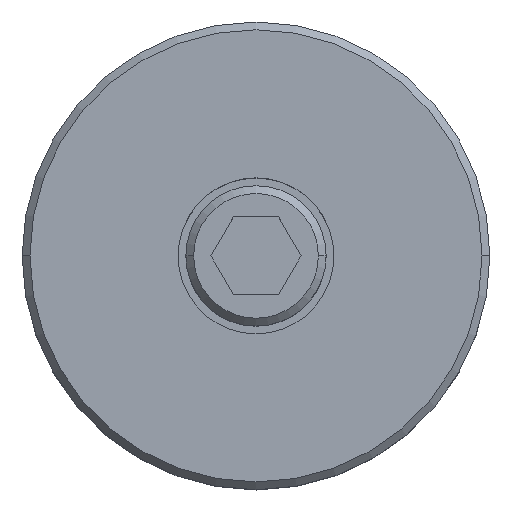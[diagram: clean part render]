
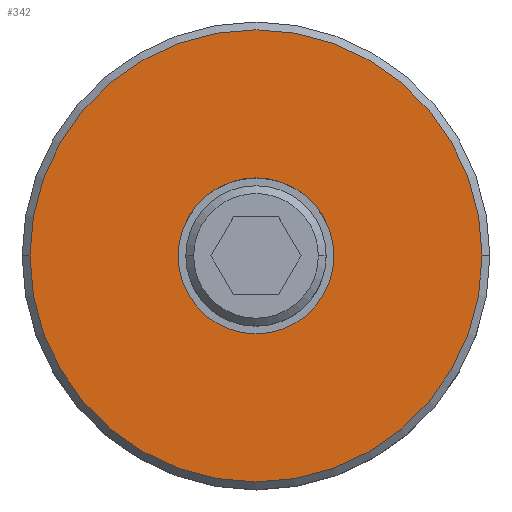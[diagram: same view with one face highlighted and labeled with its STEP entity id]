
A CAD part, top view. The second image highlights one B-rep face of the part: STEP entity #342.
In plain terms, the highlighted planar face has unit normal (0, 0, 1).
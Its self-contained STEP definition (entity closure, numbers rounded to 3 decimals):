
#101=VERTEX_POINT(' ',#102);
#102=CARTESIAN_POINT('',(-10.,0.,20.));
#103=VERTEX_POINT(' ',#104);
#104=CARTESIAN_POINT('',(10.,0.,20.));
#105=VERTEX_POINT(' ',#106);
#106=CARTESIAN_POINT('',(-29.,0.,20.));
#107=VERTEX_POINT(' ',#108);
#108=CARTESIAN_POINT('',(29.,0.,20.));
#172=CIRCLE('',#173,10.);
#173=AXIS2_PLACEMENT_3D('',#174,#175,#176);
#174=CARTESIAN_POINT('',(0.,0.,20.));
#175=DIRECTION('',(0.,0.,-1.));
#176=DIRECTION('',(0.,1.,0.));
#177=EDGE_CURVE(' ',#103,#101,#172,.T.);
#183=CIRCLE('',#184,10.);
#184=AXIS2_PLACEMENT_3D('',#185,#186,#187);
#185=CARTESIAN_POINT('',(0.,0.,20.));
#186=DIRECTION('',(0.,0.,-1.));
#187=DIRECTION('',(0.,-1.,0.));
#188=EDGE_CURVE(' ',#101,#103,#183,.T.);
#189=CIRCLE('',#190,29.);
#190=AXIS2_PLACEMENT_3D('',#191,#192,#193);
#191=CARTESIAN_POINT('',(0.,0.,20.));
#192=DIRECTION('',(0.,0.,-1.));
#193=DIRECTION('',(0.,1.,0.));
#194=EDGE_CURVE(' ',#107,#105,#189,.T.);
#195=CIRCLE('',#196,29.);
#196=AXIS2_PLACEMENT_3D('',#197,#198,#199);
#197=CARTESIAN_POINT('',(0.,0.,20.));
#198=DIRECTION('',(0.,0.,-1.));
#199=DIRECTION('',(0.,-1.,0.));
#200=EDGE_CURVE(' ',#105,#107,#195,.T.);
#329=ORIENTED_EDGE('',*,*,#194,.F.);
#330=ORIENTED_EDGE('',*,*,#200,.F.);
#331=EDGE_LOOP('',(#329,#330));
#332=FACE_OUTER_BOUND('',#331,.T.);
#333=ORIENTED_EDGE('',*,*,#188,.T.);
#334=ORIENTED_EDGE('',*,*,#177,.T.);
#335=EDGE_LOOP('',(#333,#334));
#336=FACE_BOUND('',#335,.T.);
#337=PLANE('',#338);
#338=AXIS2_PLACEMENT_3D('',#339,#340,#341);
#339=CARTESIAN_POINT('',(0.,0.,20.));
#340=DIRECTION('',(0.,0.,1.));
#341=DIRECTION('',(0.,1.,0.));
#342=ADVANCED_FACE('',(#332,#336),#337,.T.);
